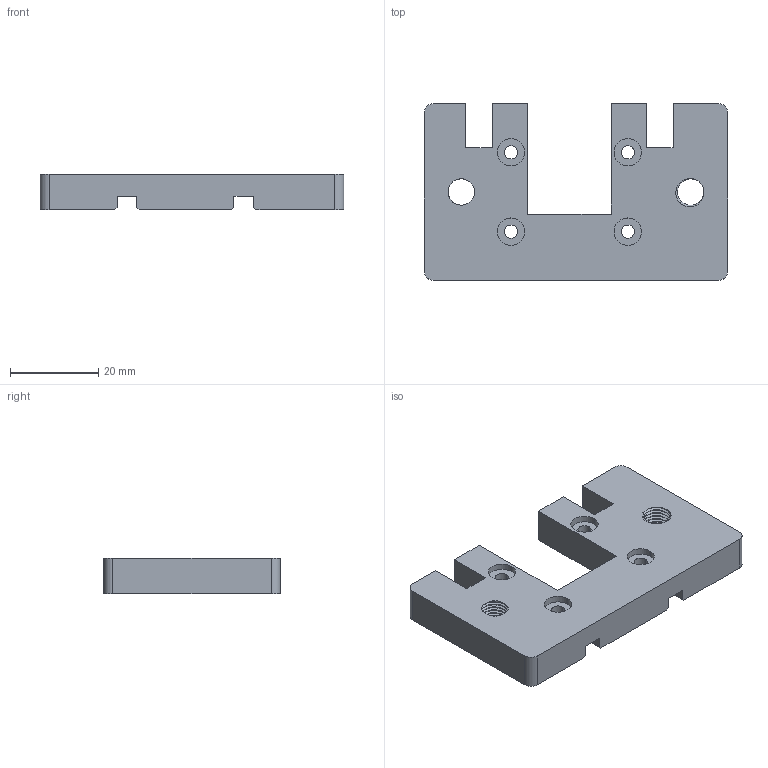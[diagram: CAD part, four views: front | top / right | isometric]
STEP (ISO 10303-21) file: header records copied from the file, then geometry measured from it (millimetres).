
FILE_DESCRIPTION (( 'STEP AP214' ), '1' );
FILE_NAME ('底座（T）.STEP', '2024-11-14T11:33:52', ( '' ), ( '' ), 'SwSTEP 2.0', 'SolidWorks 2021', '' );
FILE_SCHEMA (( 'AUTOMOTIVE_DESIGN' ));
Length unit declared in the file: millimetre
Products named in the file (1): 菁釱ㄗTㄘ
Bounding box: 68.82 x 40 x 8 mm (x, y, z)
Volume: 15344.5 mm3; surface area: 7707.1 mm2
Topology: 1 solids, 1 shells, 104 faces, 286 edges, 188 vertices
Faces by surface type: cylinder 62, plane 36, bspline 6
Entity records: 6298 total; most frequent: CARTESIAN_POINT 3829, ORIENTED_EDGE 572, DIRECTION 442, EDGE_CURVE 286, VERTEX_POINT 188, VECTOR 152, LINE 152, AXIS2_PLACEMENT_3D 145
